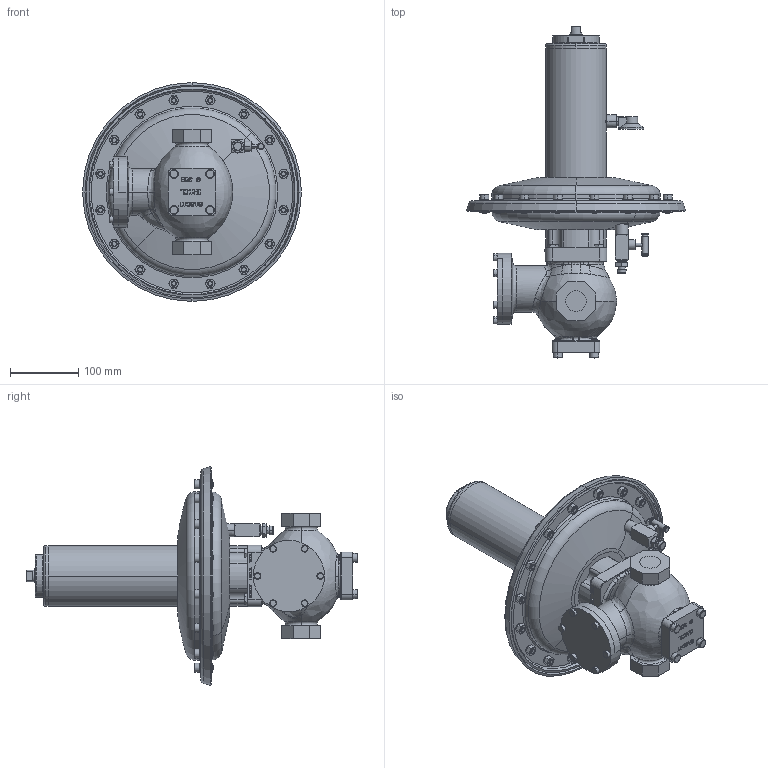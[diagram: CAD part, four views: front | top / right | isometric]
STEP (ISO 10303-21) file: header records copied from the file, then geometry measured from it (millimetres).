
FILE_DESCRIPTION((''),'2;1');
FILE_NAME('BRISE_1_SW0002','2019-07-03T',('jjunior'),(''),'PRO/ENGINEER BY PARAMETRIC TECHNOLOGY CORPORATION, 2010160','PRO/ENGINEER BY PARAMETRIC TECHNOLOGY CORPORATION, 2010160','');
FILE_SCHEMA(('CONFIG_CONTROL_DESIGN'));
Length unit declared in the file: millimetre
Products named in the file (1): BRISE_1_SW0002
Bounding box: 319.82 x 485.3 x 319.82 mm (x, y, z)
Volume: 2002817.1 mm3; surface area: 757996.3 mm2
Topology: 3 solids, 3 shells, 2457 faces, 6031 edges, 3734 vertices
Faces by surface type: plane 1158, cylinder 480, cone 436, torus 190, bspline 175, sphere 16, extrusion 2
Entity records: 96173 total; most frequent: CARTESIAN_POINT 39190, ORIENTED_EDGE 12038, DIRECTION 11583, EDGE_CURVE 6019, AXIS2_PLACEMENT_3D 4185, VERTEX_POINT 3734, VECTOR 3213, LINE 3211
